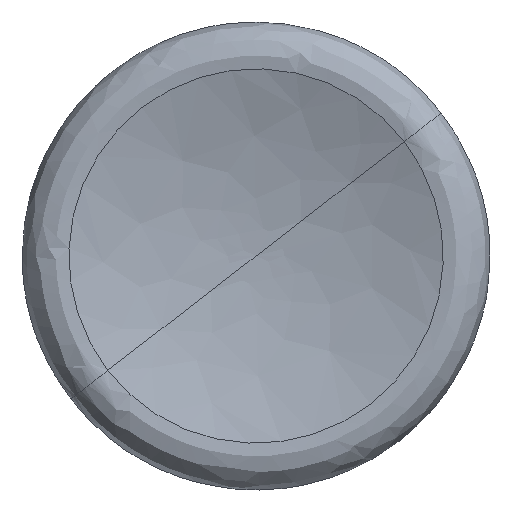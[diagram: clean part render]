
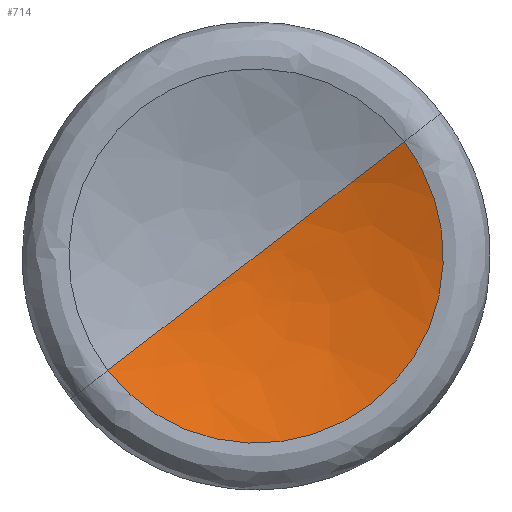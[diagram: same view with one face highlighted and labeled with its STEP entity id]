
A CAD part, front view. The second image highlights one B-rep face of the part: STEP entity #714.
In plain terms, the highlighted free-form (B-spline) face has degree [3, 3] with [4, 4] control points.
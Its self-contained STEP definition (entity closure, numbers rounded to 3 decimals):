
#2 =( BOUNDED_SURFACE ( )  B_SPLINE_SURFACE ( 3, 3, ( 
 ( #3690, #2897, #7034, #3062 ),
 ( #6198, #6019, #7759, #7678 ),
 ( #6426, #4026, #3155, #7810 ),
 ( #3609, #6741, #1794, #5134 ) ),
 .UNSPECIFIED., .F., .F., .F. ) 
 B_SPLINE_SURFACE_WITH_KNOTS ( ( 4, 4 ),
 ( 4, 4 ),
 ( 0.854, 1. ),
 ( 0., 1. ),
 .UNSPECIFIED. ) 
 GEOMETRIC_REPRESENTATION_ITEM ( )  RATIONAL_B_SPLINE_SURFACE ( (
 ( 0.75, 0.25, 0.25, 0.75),
 ( 0.819, 0.273, 0.273, 0.819),
 ( 0.902, 0.301, 0.301, 0.902),
 ( 1., 0.333, 0.333, 1.) ) ) 
 REPRESENTATION_ITEM ( '' )  SURFACE ( )  );
#295 = CARTESIAN_POINT ( 'NONE',  ( 30.835, -104.176, 23.797 ) ) ;
#371 = ORIENTED_EDGE ( 'NONE', *, *, #1088, .F. ) ;
#384 = CARTESIAN_POINT ( 'NONE',  ( -62.969, -110.46, -48.598 ) ) ;
#714 = ADVANCED_FACE ( 'NONE', ( #4506 ), #2, .T. ) ;
#841 = DIRECTION ( 'NONE',  ( 0., 1., 0. ) ) ;
#1088 = EDGE_CURVE ( 'NONE', #5820, #4921, #2947, .T. ) ;
#1173 = CARTESIAN_POINT ( 'NONE',  ( 94.998, -124.764, 73.317 ) ) ;
#1426 = CARTESIAN_POINT ( 'NONE',  ( -30.835, -104.176, -23.797 ) ) ;
#1548 = ORIENTED_EDGE ( 'NONE', *, *, #4068, .T. ) ;
#1794 = CARTESIAN_POINT ( 'NONE',  ( 0., -104.176, 0. ) ) ;
#2074 = CIRCLE ( 'NONE', #2395, 120. ) ;
#2298 = CARTESIAN_POINT ( 'NONE',  ( 0., -104.176, 0. ) ) ;
#2395 = AXIS2_PLACEMENT_3D ( 'NONE', #4475, #841, #5101 ) ;
#2564 = VERTEX_POINT ( 'NONE', #1173 ) ;
#2877 = CARTESIAN_POINT ( 'NONE',  ( -94.998, -124.764, -73.317 ) ) ;
#2897 = CARTESIAN_POINT ( 'NONE',  ( 241.632, -124.764, -116.679 ) ) ;
#2947 =( BOUNDED_CURVE ( )  B_SPLINE_CURVE ( 3, ( #2877, #384, #1426, #3938 ),
 .UNSPECIFIED., .F., .F. ) 
 B_SPLINE_CURVE_WITH_KNOTS ( ( 4, 4 ),
 ( 0.854, 1. ),
 .UNSPECIFIED. ) 
 CURVE ( )  GEOMETRIC_REPRESENTATION_ITEM ( )  RATIONAL_B_SPLINE_CURVE ( ( 0.75, 0.819, 0.902, 1. ) ) 
 REPRESENTATION_ITEM ( '' )  );
#2955 = ORIENTED_EDGE ( 'NONE', *, *, #6519, .F. ) ;
#3062 = CARTESIAN_POINT ( 'NONE',  ( -94.998, -124.764, -73.317 ) ) ;
#3155 = CARTESIAN_POINT ( 'NONE',  ( 16.76, -104.176, -85.467 ) ) ;
#3244 = CARTESIAN_POINT ( 'NONE',  ( 62.969, -110.46, 48.598 ) ) ;
#3609 = CARTESIAN_POINT ( 'NONE',  ( 0., -104.176, 0. ) ) ;
#3690 = CARTESIAN_POINT ( 'NONE',  ( 94.998, -124.764, 73.317 ) ) ;
#3938 = CARTESIAN_POINT ( 'NONE',  ( 0., -104.176, 0. ) ) ;
#4026 = CARTESIAN_POINT ( 'NONE',  ( 78.43, -104.176, -37.872 ) ) ;
#4068 = EDGE_CURVE ( 'NONE', #2564, #4921, #4765, .T. ) ;
#4457 = CARTESIAN_POINT ( 'NONE',  ( -94.998, -124.764, -73.317 ) ) ;
#4475 = CARTESIAN_POINT ( 'NONE',  ( 0., -124.764, 0. ) ) ;
#4506 = FACE_OUTER_BOUND ( 'NONE', #6635, .T. ) ;
#4765 =( BOUNDED_CURVE ( )  B_SPLINE_CURVE ( 3, ( #7713, #3244, #295, #2298 ),
 .UNSPECIFIED., .F., .T. ) 
 B_SPLINE_CURVE_WITH_KNOTS ( ( 4, 4 ),
 ( 0.854, 1. ),
 .UNSPECIFIED. ) 
 CURVE ( )  GEOMETRIC_REPRESENTATION_ITEM ( )  RATIONAL_B_SPLINE_CURVE ( ( 0.75, 0.819, 0.902, 1. ) ) 
 REPRESENTATION_ITEM ( '' )  );
#4921 = VERTEX_POINT ( 'NONE', #5331 ) ;
#5101 = DIRECTION ( 'NONE',  ( -0.792, 0., -0.611 ) ) ;
#5134 = CARTESIAN_POINT ( 'NONE',  ( 0., -104.176, 0. ) ) ;
#5331 = CARTESIAN_POINT ( 'NONE',  ( 0., -104.176, 0. ) ) ;
#5820 = VERTEX_POINT ( 'NONE', #4457 ) ;
#6019 = CARTESIAN_POINT ( 'NONE',  ( 160.165, -110.46, -77.34 ) ) ;
#6198 = CARTESIAN_POINT ( 'NONE',  ( 62.969, -110.46, 48.598 ) ) ;
#6426 = CARTESIAN_POINT ( 'NONE',  ( 30.835, -104.176, 23.797 ) ) ;
#6519 = EDGE_CURVE ( 'NONE', #2564, #5820, #2074, .T. ) ;
#6635 = EDGE_LOOP ( 'NONE', ( #371, #2955, #1548 ) ) ;
#6741 = CARTESIAN_POINT ( 'NONE',  ( 0., -104.176, 0. ) ) ;
#7034 = CARTESIAN_POINT ( 'NONE',  ( 51.636, -124.764, -263.313 ) ) ;
#7678 = CARTESIAN_POINT ( 'NONE',  ( -62.969, -110.46, -48.598 ) ) ;
#7713 = CARTESIAN_POINT ( 'NONE',  ( 94.998, -124.764, 73.317 ) ) ;
#7759 = CARTESIAN_POINT ( 'NONE',  ( 34.227, -110.46, -174.536 ) ) ;
#7810 = CARTESIAN_POINT ( 'NONE',  ( -30.835, -104.176, -23.797 ) ) ;
